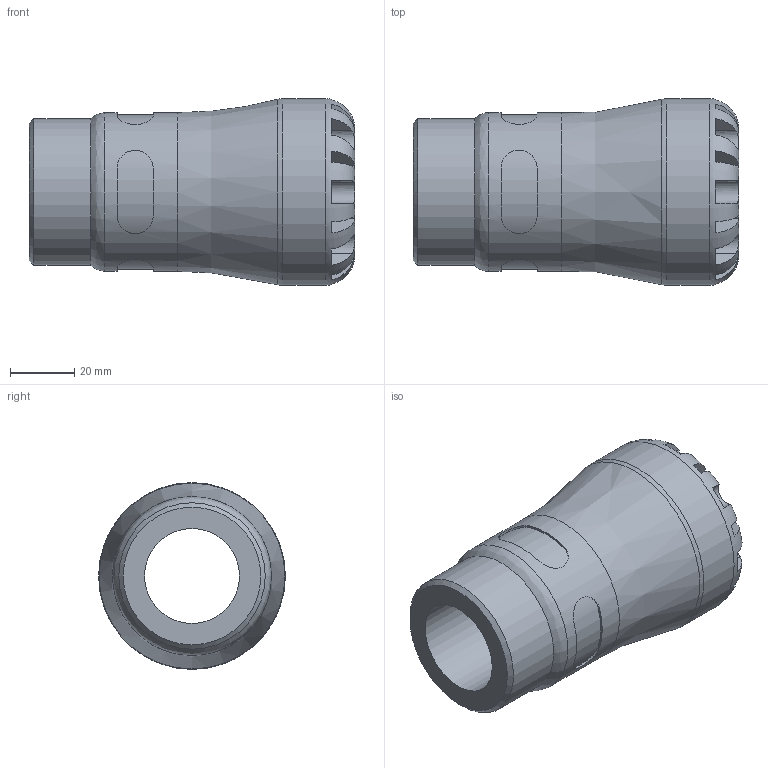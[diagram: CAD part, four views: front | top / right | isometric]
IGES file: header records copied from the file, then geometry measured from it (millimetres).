
Global section: file name: 107200032015_197200032015.ipt; native system: Autodesk Inventor 2015; preprocessor: unknown; author: KIM; date: 20170122.104933; units: millimetre
Bounding box: 101 x 58 x 58 mm (x, y, z)
Volume: 128739.4 mm3; surface area: 29956.7 mm2
Topology: 1 solids, 1 shells, 98 faces, 254 edges, 162 vertices
Faces by surface type: plane 59, revolution 23, cylinder 15, cone 1
Full cylindrical faces by diameter (mm): 45.485 x1, 49.3 x1, 58 x1
